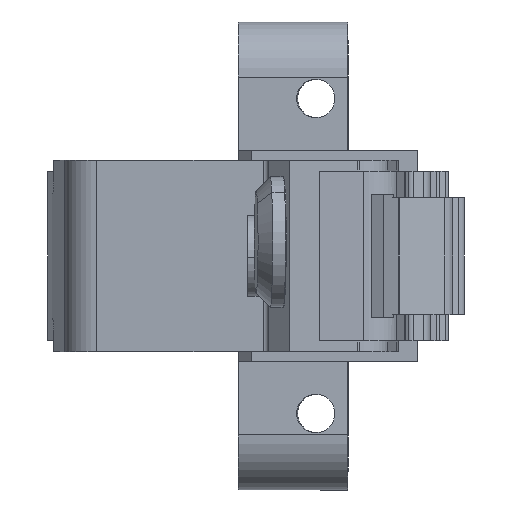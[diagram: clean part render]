
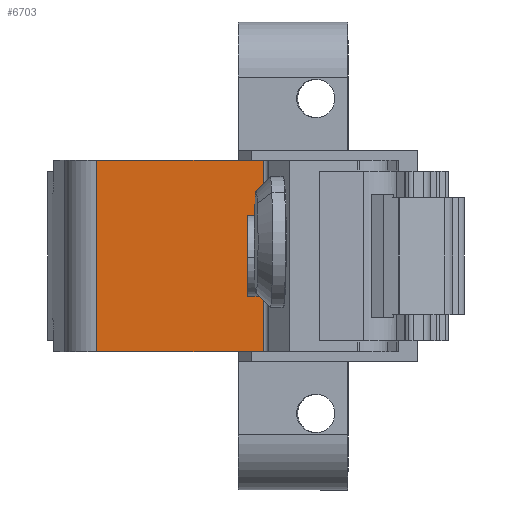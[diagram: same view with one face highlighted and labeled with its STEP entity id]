
A CAD part, left-side view. The second image highlights one B-rep face of the part: STEP entity #6703.
In plain terms, the highlighted planar face has unit normal (-1, 0.033, 0).
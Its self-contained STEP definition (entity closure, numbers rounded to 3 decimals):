
#19 = ORIENTED_EDGE ( 'NONE', *, *, #6800, .F. ) ;
#110 = LINE ( 'NONE', #4906, #6547 ) ;
#354 = CARTESIAN_POINT ( 'NONE',  ( -30.679, 2.682, 6.7 ) ) ;
#426 = ORIENTED_EDGE ( 'NONE', *, *, #2839, .T. ) ;
#554 = CARTESIAN_POINT ( 'NONE',  ( -30.198, 17.466, -42.856 ) ) ;
#775 = LINE ( 'NONE', #5176, #2245 ) ;
#828 = EDGE_CURVE ( 'NONE', #5640, #6190, #3223, .T. ) ;
#924 = CARTESIAN_POINT ( 'NONE',  ( -30.679, 2.681, 6.701 ) ) ;
#1077 = ORIENTED_EDGE ( 'NONE', *, *, #2122, .F. ) ;
#1130 = CARTESIAN_POINT ( 'NONE',  ( -30.679, 2.681, 6.702 ) ) ;
#1293 = DIRECTION ( 'NONE',  ( 0., 0., 1. ) ) ;
#1348 = VERTEX_POINT ( 'NONE', #354 ) ;
#1414 = ORIENTED_EDGE ( 'NONE', *, *, #6961, .T. ) ;
#1533 = VECTOR ( 'NONE', #1293, 1000. ) ;
#1561 = EDGE_CURVE ( 'NONE', #4138, #4011, #3464, .T. ) ;
#1629 = CARTESIAN_POINT ( 'NONE',  ( -30.198, 17.466, -8.5 ) ) ;
#1643 = VECTOR ( 'NONE', #4327, 1000. ) ;
#1767 = AXIS2_PLACEMENT_3D ( 'NONE', #554, #6910, #5909 ) ;
#1833 = CARTESIAN_POINT ( 'NONE',  ( -30.679, 2.682, -42.856 ) ) ;
#1890 = ORIENTED_EDGE ( 'NONE', *, *, #2250, .F. ) ;
#1950 = CARTESIAN_POINT ( 'NONE',  ( -30.198, 17.466, 8.5 ) ) ;
#1995 = CARTESIAN_POINT ( 'NONE',  ( -30.679, 2.681, -6.701 ) ) ;
#2122 = EDGE_CURVE ( 'NONE', #5640, #5430, #4285, .T. ) ;
#2172 = FACE_OUTER_BOUND ( 'NONE', #3941, .T. ) ;
#2244 = B_SPLINE_CURVE_WITH_KNOTS ( 'NONE', 3,
 ( #2633, #5988, #924, #1130 ),
 .UNSPECIFIED., .F., .F.,
 ( 4, 4 ),
 ( 0., 1. ),
 .UNSPECIFIED. ) ;
#2245 = VECTOR ( 'NONE', #4002, 1000. ) ;
#2250 = EDGE_CURVE ( 'NONE', #4011, #6190, #110, .T. ) ;
#2289 = EDGE_CURVE ( 'NONE', #5430, #3786, #2503, .T. ) ;
#2339 = EDGE_CURVE ( 'NONE', #2454, #1348, #5609, .T. ) ;
#2454 = VERTEX_POINT ( 'NONE', #5826 ) ;
#2503 = LINE ( 'NONE', #3491, #2912 ) ;
#2544 = ORIENTED_EDGE ( 'NONE', *, *, #2339, .F. ) ;
#2633 = CARTESIAN_POINT ( 'NONE',  ( -30.679, 2.681, 6.7 ) ) ;
#2698 = ORIENTED_EDGE ( 'NONE', *, *, #4359, .T. ) ;
#2839 = EDGE_CURVE ( 'NONE', #2454, #4916, #2244, .T. ) ;
#2912 = VECTOR ( 'NONE', #4690, 1000. ) ;
#3223 = LINE ( 'NONE', #1629, #1643 ) ;
#3248 = CARTESIAN_POINT ( 'NONE',  ( -30.198, 17.466, -42.856 ) ) ;
#3464 = B_SPLINE_CURVE_WITH_KNOTS ( 'NONE', 3,
 ( #6845, #1995, #4073, #5667 ),
 .UNSPECIFIED., .F., .F.,
 ( 4, 4 ),
 ( 0., 1. ),
 .UNSPECIFIED. ) ;
#3491 = CARTESIAN_POINT ( 'NONE',  ( -30.198, 17.466, 8.5 ) ) ;
#3555 = CARTESIAN_POINT ( 'NONE',  ( -30.679, 2.681, -8.5 ) ) ;
#3694 = CARTESIAN_POINT ( 'NONE',  ( -30.679, 2.681, -6.7 ) ) ;
#3780 = CARTESIAN_POINT ( 'NONE',  ( -30.679, 2.682, -6.7 ) ) ;
#3786 = VERTEX_POINT ( 'NONE', #4940 ) ;
#3867 = ORIENTED_EDGE ( 'NONE', *, *, #2289, .F. ) ;
#3941 = EDGE_LOOP ( 'NONE', ( #19, #1414, #2544, #426, #2698, #3867, #1077, #5970, #1890, #6496 ) ) ;
#3988 = LINE ( 'NONE', #1833, #1533 ) ;
#4002 = DIRECTION ( 'NONE',  ( 0., 0., 1. ) ) ;
#4011 = VERTEX_POINT ( 'NONE', #4863 ) ;
#4019 = VECTOR ( 'NONE', #6053, 1000. ) ;
#4073 = CARTESIAN_POINT ( 'NONE',  ( -30.679, 2.681, -6.701 ) ) ;
#4138 = VERTEX_POINT ( 'NONE', #3694 ) ;
#4285 = LINE ( 'NONE', #3248, #5972 ) ;
#4327 = DIRECTION ( 'NONE',  ( -0.033, -0.999, 0. ) ) ;
#4359 = EDGE_CURVE ( 'NONE', #4916, #3786, #775, .T. ) ;
#4398 = LINE ( 'NONE', #6089, #4019 ) ;
#4550 = CARTESIAN_POINT ( 'NONE',  ( -30.197, 16.474, 6.7 ) ) ;
#4623 = DIRECTION ( 'NONE',  ( 0.035, 0.999, 0. ) ) ;
#4690 = DIRECTION ( 'NONE',  ( -0.033, -0.999, 0. ) ) ;
#4743 = PLANE ( 'NONE',  #1767 ) ;
#4809 = DIRECTION ( 'NONE',  ( 0., 0., 1. ) ) ;
#4863 = CARTESIAN_POINT ( 'NONE',  ( -30.679, 2.681, -6.702 ) ) ;
#4903 = CARTESIAN_POINT ( 'NONE',  ( -30.679, 2.681, 6.702 ) ) ;
#4906 = CARTESIAN_POINT ( 'NONE',  ( -30.679, 2.681, 8.502 ) ) ;
#4916 = VERTEX_POINT ( 'NONE', #4903 ) ;
#4940 = CARTESIAN_POINT ( 'NONE',  ( -30.679, 2.681, 8.5 ) ) ;
#5048 = DIRECTION ( 'NONE',  ( 0., 0., -1. ) ) ;
#5176 = CARTESIAN_POINT ( 'NONE',  ( -30.679, 2.681, -8.502 ) ) ;
#5430 = VERTEX_POINT ( 'NONE', #1950 ) ;
#5609 = LINE ( 'NONE', #4550, #5694 ) ;
#5640 = VERTEX_POINT ( 'NONE', #6088 ) ;
#5667 = CARTESIAN_POINT ( 'NONE',  ( -30.679, 2.681, -6.702 ) ) ;
#5694 = VECTOR ( 'NONE', #4623, 1000. ) ;
#5826 = CARTESIAN_POINT ( 'NONE',  ( -30.679, 2.681, 6.7 ) ) ;
#5909 = DIRECTION ( 'NONE',  ( -0.033, -0.999, 0. ) ) ;
#5970 = ORIENTED_EDGE ( 'NONE', *, *, #828, .T. ) ;
#5972 = VECTOR ( 'NONE', #4809, 1000. ) ;
#5988 = CARTESIAN_POINT ( 'NONE',  ( -30.679, 2.681, 6.701 ) ) ;
#6053 = DIRECTION ( 'NONE',  ( -0.035, -0.999, 0. ) ) ;
#6088 = CARTESIAN_POINT ( 'NONE',  ( -30.198, 17.466, -8.5 ) ) ;
#6089 = CARTESIAN_POINT ( 'NONE',  ( -30.197, 16.474, -6.7 ) ) ;
#6190 = VERTEX_POINT ( 'NONE', #3555 ) ;
#6496 = ORIENTED_EDGE ( 'NONE', *, *, #1561, .F. ) ;
#6547 = VECTOR ( 'NONE', #5048, 1000. ) ;
#6616 = VERTEX_POINT ( 'NONE', #3780 ) ;
#6703 = ADVANCED_FACE ( 'NONE', ( #2172 ), #4743, .T. ) ;
#6800 = EDGE_CURVE ( 'NONE', #6616, #4138, #4398, .T. ) ;
#6845 = CARTESIAN_POINT ( 'NONE',  ( -30.679, 2.681, -6.7 ) ) ;
#6910 = DIRECTION ( 'NONE',  ( -0.999, 0.033, 0. ) ) ;
#6961 = EDGE_CURVE ( 'NONE', #6616, #1348, #3988, .T. ) ;
